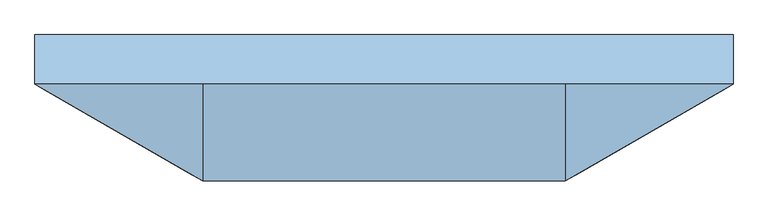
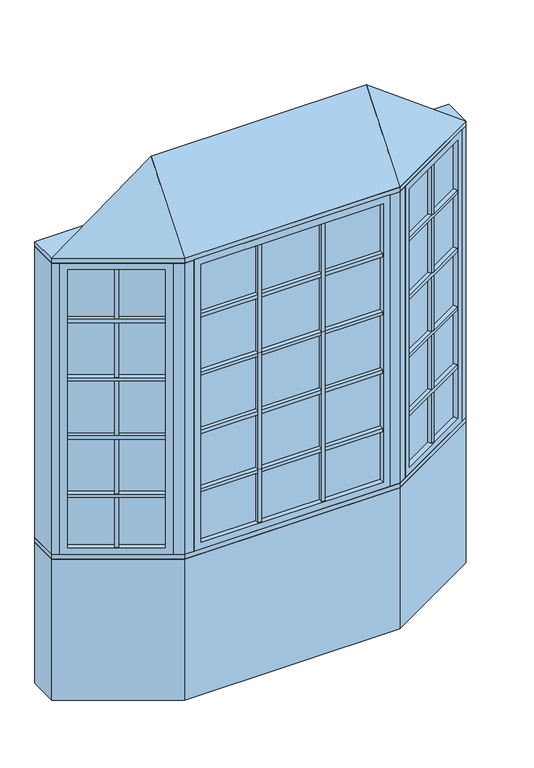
"""IFC4 building model written with IfcOpenShell, lengths in millimetres: window geometry, Pollard_Windows_Tudor Casement Bows and Bays : AML-BAY 30 AFR0616-10-500_GC."""

import ifcopenshell
import ifcopenshell.guid

model = None  # the IFC model being written
_history = None  # IfcOwnerHistory: only IFC2X3 demands one
_inside = {}  # id of a spatial element -> (the spatial element, [elements in it])
_under = {}  # id of a project, library or spatial element -> (it, [spatial elements below it])
_declared = {}  # id of a project -> (the project, [libraries it declares])
_typed = {}  # id of a type object -> (the type object, [elements of that type])
_made_of = {}  # id of a material, layer set ... -> (it, [elements and type objects made of it])


def new_model(schema):
    """Start an empty IFC model of exactly this schema.

    Asked for "IFC4X3", IfcOpenShell would pick the latest addendum, in which some entities
    have other attributes; the version numbers below select the first issue.
    IFC2X3 requires an IfcOwnerHistory on every rooted entity: one is made here for all.
    """
    global model, _history
    if schema == "IFC4X3":
        model = ifcopenshell.file(schema_version=(4, 3, 0, 0))
    else:
        model = ifcopenshell.file(schema=schema)
    _inside.clear()
    _under.clear()
    _declared.clear()
    _typed.clear()
    _made_of.clear()
    _history = None
    if model.schema == "IFC2X3":
        org = make("IfcOrganization", Name="unknown")
        user = make(
            "IfcPersonAndOrganization",
            ThePerson=make("IfcPerson", FamilyName="unknown"),
            TheOrganization=org,
        )
        app = make(
            "IfcApplication",
            ApplicationDeveloper=org,
            Version="unknown",
            ApplicationFullName="unknown",
            ApplicationIdentifier="unknown",
        )
        _history = make(
            "IfcOwnerHistory",
            OwningUser=user,
            OwningApplication=app,
            ChangeAction="ADDED",
            CreationDate=0,
        )
    return model


def make(cls, **values):
    """One entity of the class cls with the attributes given. An attribute that is None is left unset."""
    return model.create_entity(
        cls, **{name: value for name, value in values.items() if value is not None}
    )


def rooted(cls, **values):
    """An entity with a GlobalId (a new one), such as an element, a storey or a relation."""
    return make(cls, GlobalId=ifcopenshell.guid.new(), OwnerHistory=_history, **values)


def si_unit(unit_type, name, prefix=None):
    """IfcSIUnit, for example si_unit("LENGTHUNIT", "METRE", prefix="MILLI")."""
    return make("IfcSIUnit", UnitType=unit_type, Prefix=prefix, Name=name)


def assignment(units):
    """IfcUnitAssignment: the units of a project."""
    return None if units is None else make("IfcUnitAssignment", Units=units)


def point(xyz):
    """IfcCartesianPoint."""
    return None if xyz is None else make("IfcCartesianPoint", Coordinates=xyz)


def direction(xyz):
    """IfcDirection."""
    return None if xyz is None else make("IfcDirection", DirectionRatios=xyz)


def frame(location, z_axis=None, x_axis=None):
    """IfcAxis2Placement3D, a coordinate frame: its origin and axes. An axis left out is left unset."""
    return make(
        "IfcAxis2Placement3D",
        Location=point(location),
        Axis=direction(z_axis),
        RefDirection=direction(x_axis),
    )


def origin():
    """The frame at (0, 0, 0) with its axes left unset."""
    return frame((0.0, 0.0, 0.0))


def origin_with_axes():
    """The frame at (0, 0, 0) with the z axis (0, 0, 1) and the x axis (1, 0, 0) written out."""
    return frame((0.0, 0.0, 0.0), z_axis=(0.0, 0.0, 1.0), x_axis=(1.0, 0.0, 0.0))


def place(relative_to, where):
    """IfcLocalPlacement: puts the frame where relative to a parent placement (None: the world)."""
    return make(
        "IfcLocalPlacement", PlacementRelTo=relative_to, RelativePlacement=where
    )


def context(
    kind, dimensions, precision=None, world=None, true_north=None, identifier=None
):
    """IfcGeometricRepresentationContext, for example the 3D "Model" context."""
    return make(
        "IfcGeometricRepresentationContext",
        ContextIdentifier=identifier,
        ContextType=kind,
        CoordinateSpaceDimension=dimensions,
        Precision=precision,
        WorldCoordinateSystem=world,
        TrueNorth=true_north,
    )


def project(units=None, contexts=None):
    """IfcProject with its units and contexts."""
    return rooted(
        "IfcProject",
        Name="project",
        RepresentationContexts=contexts,
        UnitsInContext=assignment(units),
    )


def spatial(cls, under=None, at=None, **own):
    """A site, building, storey or space (cls), placed at a placement, below another one or the project."""
    s = rooted(cls, ObjectPlacement=at, **own)
    if under is not None:
        _under.setdefault(under.id(), (under, []))[1].append(s)
    return s


def polyline(points):
    """IfcPolyline through the points."""
    return make("IfcPolyline", Points=[point(p) for p in points])


def outline(outer, holes=None, kind="AREA"):
    """IfcArbitraryClosedProfileDef: a profile drawn as a closed curve; with holes, ...WithVoids."""
    if holes is None:
        return make("IfcArbitraryClosedProfileDef", ProfileType=kind, OuterCurve=outer)
    return make(
        "IfcArbitraryProfileDefWithVoids",
        ProfileType=kind,
        OuterCurve=outer,
        InnerCurves=holes,
    )


def extrude(swept, where, along, depth):
    """IfcExtrudedAreaSolid: the profile swept, set in the frame where, extruded along a direction by depth."""
    return make(
        "IfcExtrudedAreaSolid",
        SweptArea=swept,
        Position=where,
        ExtrudedDirection=direction(along),
        Depth=depth,
    )


def faces_of(points, faces, orient=None, outer=None):
    """IfcFace entities. A face is a list of loops; a loop is a list of indices into points, from 0.

    orient and outer hold one flag for each loop. By default every Orientation is true, the
    first loop of a face is its IfcFaceOuterBound and the others are IfcFaceBound.
    """
    made = []
    for i, loops in enumerate(faces):
        bounds = []
        for j, loop in enumerate(loops):
            is_outer = j == 0 if outer is None else outer[i][j]
            bounds.append(
                make(
                    "IfcFaceOuterBound" if is_outer else "IfcFaceBound",
                    Bound=make("IfcPolyLoop", Polygon=[points[k] for k in loop]),
                    Orientation=True if orient is None else orient[i][j],
                )
            )
        made.append(make("IfcFace", Bounds=bounds))
    return made


def faceted_brep(points, faces, orient=None, outer=None, voids=None):
    """IfcFacetedBrep: a solid bounded by flat faces; with voids (closed shells), ...WithVoids."""
    shared = [point(p) for p in points]
    hull = make("IfcClosedShell", CfsFaces=faces_of(shared, faces, orient, outer))
    if voids is None:
        return make("IfcFacetedBrep", Outer=hull)
    return make(
        "IfcFacetedBrepWithVoids",
        Outer=hull,
        Voids=[
            make(cls, CfsFaces=faces_of(shared, fs, o, b)) for cls, fs, o, b in voids
        ],
    )


def shape(context_of_items, identifier, shape_type, items):
    """IfcShapeRepresentation: the items that make up one representation, for example the "Body"."""
    return make(
        "IfcShapeRepresentation",
        ContextOfItems=context_of_items,
        RepresentationIdentifier=identifier,
        RepresentationType=shape_type,
        Items=items,
    )


def source(mapping_origin, context_of_items, identifier, shape_type, items):
    """IfcRepresentationMap: a shape defined once, which mapped items show again and again."""
    return make(
        "IfcRepresentationMap",
        MappingOrigin=mapping_origin,
        MappedRepresentation=shape(context_of_items, identifier, shape_type, items),
    )


def transform(
    local_origin,
    x_axis=None,
    y_axis=None,
    z_axis=None,
    scale=None,
    scale2=None,
    scale3=None,
    uniform=True,
):
    """IfcCartesianTransformationOperator3D, or its non-uniform kind. x_axis, y_axis, z_axis: its Axis1, 2, 3."""
    if uniform:
        return make(
            "IfcCartesianTransformationOperator3D",
            Axis1=direction(x_axis),
            Axis2=direction(y_axis),
            LocalOrigin=point(local_origin),
            Scale=scale,
            Axis3=direction(z_axis),
        )
    return make(
        "IfcCartesianTransformationOperator3DnonUniform",
        Axis1=direction(x_axis),
        Axis2=direction(y_axis),
        LocalOrigin=point(local_origin),
        Scale=scale,
        Axis3=direction(z_axis),
        Scale2=scale2,
        Scale3=scale3,
    )


def mapped(mapping_source, mapping_target):
    """IfcMappedItem: shows the shape of a source again, moved by a transform."""
    return make(
        "IfcMappedItem", MappingSource=mapping_source, MappingTarget=mapping_target
    )


def made_of(thing, what):
    """Note that an element or type object is made of a material, layer set ...; save() writes the relation."""
    if what is not None:
        _made_of.setdefault(what.id(), (what, []))[1].append(thing)
    return thing


def element(
    cls,
    number,
    at=None,
    inside=None,
    cuts=None,
    type_object=None,
    material=None,
    context=None,
    identifier="Body",
    shape_type=None,
    held_by="IfcProductDefinitionShape",
    body=None,
    shapes=None,
    **own,
):
    """One element of the class cls, such as IfcWall. Its Tag is "e" and its number.

    at: its placement. inside: the storey or other place that contains it. cuts: it is an
    opening in that element (IfcRelVoidsElement). A single representation is given by context,
    identifier, shape_type and body (its items); several are given by shapes. held_by: the class
    of the entity that holds the representations. save() writes the other relations.
    """
    e = rooted(cls, Tag="e%d" % number, ObjectPlacement=at, **own)
    if body is not None:
        shapes = [shape(context, identifier, shape_type, body)]
    if shapes is not None:
        e.Representation = make(held_by, Representations=shapes)
    if inside is not None:
        _inside.setdefault(inside.id(), (inside, []))[1].append(e)
    if cuts is not None:
        rooted(
            "IfcRelVoidsElement", RelatingBuildingElement=cuts, RelatedOpeningElement=e
        )
    if type_object is not None:
        _typed.setdefault(type_object.id(), (type_object, []))[1].append(e)
    return made_of(e, material)


def aggregate(whole, parts):
    """IfcRelAggregates: a whole, such as a stair, and the parts it consists of."""
    return rooted("IfcRelAggregates", RelatingObject=whole, RelatedObjects=parts)


def save(model, path):
    """Write the relations noted so far, then the file.

    IfcRelAggregates (storeys below a building ...), IfcRelContainedInSpatialStructure (elements
    in a storey), IfcRelDefinesByType, IfcRelAssociatesMaterial and IfcRelDeclares: one each for
    every whole, place, type object, material and project.
    """
    for whole, parts in _under.values():
        aggregate(whole, parts)
    for where, things in _inside.values():
        rooted(
            "IfcRelContainedInSpatialStructure",
            RelatedElements=things,
            RelatingStructure=where,
        )
    for kind, things in _typed.values():
        rooted("IfcRelDefinesByType", RelatedObjects=things, RelatingType=kind)
    for what, things in _made_of.values():
        rooted("IfcRelAssociatesMaterial", RelatedObjects=things, RelatingMaterial=what)
    for by, libraries in _declared.values():
        rooted("IfcRelDeclares", RelatingContext=by, RelatedDefinitions=libraries)
    model.write(path)


def window_1e108c49(model_context):
    return source(origin(), model_context, "Body", "SolidModel", [
        extrude(outline(polyline([(632.2305346, -327.3537343), (621.2305346, -308.3011754), (1002.1135794, -88.3982469), (1013.1135794, -107.4508058), (632.2305346, -327.3537343)])), frame((0.0, 0.0, 1110.998), z_axis=(0.0, 0.0, 1.0), x_axis=(1.0, 0.0, 0.0)), (0.0, 0.0, 1.0), 18.0),
        extrude(outline(polyline([(618.6905346, -303.9017664), (607.6905346, -284.8492075), (988.5735794, -64.946279), (999.5735794, -83.9988379), (618.6905346, -303.9017664)])), frame((0.0, 0.0, 1110.998), z_axis=(0.0, 0.0, 1.0), x_axis=(1.0, 0.0, 0.0)), (0.0, 0.0, 1.0), 18.0),
        extrude(outline(polyline([(632.2305346, -327.3537343), (621.2305346, -308.3011754), (1002.1135794, -88.3982469), (1013.1135794, -107.4508058), (632.2305346, -327.3537343)])), frame((0.0, 0.0, 1430.998), z_axis=(0.0, 0.0, 1.0), x_axis=(1.0, 0.0, 0.0)), (0.0, 0.0, 1.0), 18.0),
        extrude(outline(polyline([(618.6905346, -303.9017664), (607.6905346, -284.8492075), (988.5735794, -64.946279), (999.5735794, -83.9988379), (618.6905346, -303.9017664)])), frame((0.0, 0.0, 1430.998), z_axis=(0.0, 0.0, 1.0), x_axis=(1.0, 0.0, 0.0)), (0.0, 0.0, 1.0), 18.0),
        extrude(outline(polyline([(632.2305346, -327.3537343), (621.2305346, -308.3011754), (1002.1135794, -88.3982469), (1013.1135794, -107.4508058), (632.2305346, -327.3537343)])), frame((0.0, 0.0, 1750.998), z_axis=(0.0, 0.0, 1.0), x_axis=(1.0, 0.0, 0.0)), (0.0, 0.0, 1.0), 18.0),
        extrude(outline(polyline([(618.6905346, -303.9017664), (607.6905346, -284.8492075), (988.5735794, -64.946279), (999.5735794, -83.9988379), (618.6905346, -303.9017664)])), frame((0.0, 0.0, 1750.998), z_axis=(0.0, 0.0, 1.0), x_axis=(1.0, 0.0, 0.0)), (0.0, 0.0, 1.0), 18.0),
        extrude(outline(polyline([(632.2305346, -327.3537343), (621.2305346, -308.3011754), (1002.1135794, -88.3982469), (1013.1135794, -107.4508058), (632.2305346, -327.3537343)])), frame((0.0, 0.0, 2070.998), z_axis=(0.0, 0.0, 1.0), x_axis=(1.0, 0.0, 0.0)), (0.0, 0.0, 1.0), 18.0),
        extrude(outline(polyline([(618.6905346, -303.9017664), (607.6905346, -284.8492075), (988.5735794, -64.946279), (999.5735794, -83.9988379), (618.6905346, -303.9017664)])), frame((0.0, 0.0, 2070.998), z_axis=(0.0, 0.0, 1.0), x_axis=(1.0, 0.0, 0.0)), (0.0, 0.0, 1.0), 18.0),
        extrude(outline(polyline([(819.4662856, -193.8497112), (830.4662856, -212.9022701), (814.8778284, -221.9022701), (803.8778284, -202.8497112), (819.4662856, -193.8497112)])), frame((0.0, 0.0, 835.8628), z_axis=(0.0, 0.0, 1.0), x_axis=(1.0, 0.0, 0.0)), (0.0, 0.0, 1.0), 1528.2704),
        extrude(outline(polyline([(816.9262856, -189.4503021), (801.3378284, -198.4503021), (790.3378284, -179.3977432), (805.9262856, -170.3977432), (816.9262856, -189.4503021)])), frame((0.0, 0.0, 835.8628), z_axis=(0.0, 0.0, 1.0), x_axis=(1.0, 0.0, 0.0)), (0.0, 0.0, 1.0), 1528.2704),
        extrude(outline(polyline([(1013.112102, -82.0482469), (610.2320119, -314.6511754), (607.6920119, -310.2517664), (1010.572102, -77.6488379), (1013.112102, -82.0482469)])), frame((0.0, 0.0, 823.1628), z_axis=(0.0, 0.0, 1.0), x_axis=(1.0, 0.0, 0.0)), (0.0, 0.0, 1.0), 1553.6704),
        faceted_brep([(1002.1135794, -88.3982469, 835.8628), (1014.8135794, -110.3952922, 835.8628), (1014.8135794, -110.3952922, 2364.1332), (1002.1135794, -88.3982469, 2364.1332), (1010.572102, -77.6488379, 823.1628), (1013.112102, -82.0482469, 823.1628), (1013.112102, -82.0482469, 2376.8332), (1010.572102, -77.6488379, 2376.8332), (986.8735794, -62.0017926, 835.8628), (999.5735794, -83.9988379, 835.8628), (999.5735794, -83.9988379, 2364.1332), (986.8735794, -62.0017926, 2364.1332), (1045.8734073, -92.4628922, 799.998), (1017.9334073, -44.0693926, 799.998), (1017.9334073, -44.0693926, 2399.998), (1045.8734073, -92.4628922, 2399.998), (633.9305346, -330.2982207, 2364.1332), (621.2305346, -308.3011754, 2364.1332), (610.2320119, -314.6511754, 2376.8332), (607.6920119, -310.2517664, 2376.8332), (618.6905346, -303.9017664, 2364.1332), (605.9905346, -281.9047211, 2364.1332), (574.9307067, -299.8371211, 2399.998), (602.8707067, -348.2306207, 2399.998), (633.9305346, -330.2982207, 835.8628), (621.2305346, -308.3011754, 835.8628), (610.2320119, -314.6511754, 823.1628), (607.6920119, -310.2517664, 823.1628), (618.6905346, -303.9017664, 835.8628), (605.9905346, -281.9047211, 835.8628), (574.9307067, -299.8371211, 799.998), (602.8707067, -348.2306207, 799.998)], [[[0, 1, 2, 3]], [[4, 5, 6, 7]], [[8, 9, 10, 11]], [[12, 13, 14, 15]], [[3, 2, 16, 17]], [[7, 6, 18, 19]], [[11, 10, 20, 21]], [[15, 14, 22, 23]], [[17, 16, 24, 25]], [[19, 18, 26, 27]], [[21, 20, 28, 29]], [[23, 22, 30, 31]], [[25, 24, 1, 0]], [[5, 26, 18, 6], [3, 17, 25, 0]], [[27, 26, 5, 4]], [[7, 19, 27, 4], [9, 28, 20, 10]], [[29, 28, 9, 8]], [[13, 30, 22, 14], [11, 21, 29, 8]], [[31, 30, 13, 12]], [[15, 23, 31, 12], [1, 24, 16, 2]]]),
        extrude(outline(polyline([(174.1350122, -347.8306207), (174.1350122, -369.8306207), (156.1350122, -369.8306207), (156.1350122, -347.8306207), (174.1350122, -347.8306207)])), frame((0.0, 0.0, 835.8628), z_axis=(0.0, 0.0, 1.0), x_axis=(1.0, 0.0, 0.0)), (0.0, 0.0, 1.0), 1528.2704),
        extrude(outline(polyline([(174.1350122, -342.7506207), (156.1350122, -342.7506207), (156.1350122, -320.7506207), (174.1350122, -320.7506207), (174.1350122, -342.7506207)])), frame((0.0, 0.0, 835.8628), z_axis=(0.0, 0.0, 1.0), x_axis=(1.0, 0.0, 0.0)), (0.0, 0.0, 1.0), 1528.2704),
        extrude(outline(polyline([(-156.1350122, -347.8306207), (-156.1350122, -369.8306207), (-174.1350122, -369.8306207), (-174.1350122, -347.8306207), (-156.1350122, -347.8306207)])), frame((0.0, 0.0, 835.8628), z_axis=(0.0, 0.0, 1.0), x_axis=(1.0, 0.0, 0.0)), (0.0, 0.0, 1.0), 1528.2704),
        extrude(outline(polyline([(-156.1350122, -342.7506207), (-174.1350122, -342.7506207), (-174.1350122, -320.7506207), (-156.1350122, -320.7506207), (-156.1350122, -342.7506207)])), frame((0.0, 0.0, 835.8628), z_axis=(0.0, 0.0, 1.0), x_axis=(1.0, 0.0, 0.0)), (0.0, 0.0, 1.0), 1528.2704),
        extrude(outline(polyline([(-473.7046365, -369.8306207), (-473.7046365, -347.8306207), (473.7046365, -347.8306207), (473.7046365, -369.8306207), (-473.7046365, -369.8306207)])), frame((0.0, 0.0, 1110.998), z_axis=(0.0, 0.0, 1.0), x_axis=(1.0, 0.0, 0.0)), (0.0, 0.0, 1.0), 18.0),
        extrude(outline(polyline([(-473.7046365, -342.7506207), (-473.7046365, -320.7506207), (473.7046365, -320.7506207), (473.7046365, -342.7506207), (-473.7046365, -342.7506207)])), frame((0.0, 0.0, 1110.998), z_axis=(0.0, 0.0, 1.0), x_axis=(1.0, 0.0, 0.0)), (0.0, 0.0, 1.0), 18.0),
        extrude(outline(polyline([(-473.7046365, -369.8306207), (-473.7046365, -347.8306207), (473.7046365, -347.8306207), (473.7046365, -369.8306207), (-473.7046365, -369.8306207)])), frame((0.0, 0.0, 1430.998), z_axis=(0.0, 0.0, 1.0), x_axis=(1.0, 0.0, 0.0)), (0.0, 0.0, 1.0), 18.0),
        extrude(outline(polyline([(-473.7046365, -342.7506207), (-473.7046365, -320.7506207), (473.7046365, -320.7506207), (473.7046365, -342.7506207), (-473.7046365, -342.7506207)])), frame((0.0, 0.0, 1430.998), z_axis=(0.0, 0.0, 1.0), x_axis=(1.0, 0.0, 0.0)), (0.0, 0.0, 1.0), 18.0),
        extrude(outline(polyline([(-473.7046365, -369.8306207), (-473.7046365, -347.8306207), (473.7046365, -347.8306207), (473.7046365, -369.8306207), (-473.7046365, -369.8306207)])), frame((0.0, 0.0, 1750.998), z_axis=(0.0, 0.0, 1.0), x_axis=(1.0, 0.0, 0.0)), (0.0, 0.0, 1.0), 18.0),
        extrude(outline(polyline([(-473.7046365, -342.7506207), (-473.7046365, -320.7506207), (473.7046365, -320.7506207), (473.7046365, -342.7506207), (-473.7046365, -342.7506207)])), frame((0.0, 0.0, 1750.998), z_axis=(0.0, 0.0, 1.0), x_axis=(1.0, 0.0, 0.0)), (0.0, 0.0, 1.0), 18.0),
        extrude(outline(polyline([(-1013.1135794, -107.4508058), (-1002.1135794, -88.3982469), (-621.2305346, -308.3011754), (-632.2305346, -327.3537343), (-1013.1135794, -107.4508058)])), frame((0.0, 0.0, 1110.998), z_axis=(0.0, 0.0, 1.0), x_axis=(1.0, 0.0, 0.0)), (0.0, 0.0, 1.0), 18.0),
        extrude(outline(polyline([(-999.5735794, -83.9988379), (-988.5735794, -64.946279), (-607.6905346, -284.8492075), (-618.6905346, -303.9017664), (-999.5735794, -83.9988379)])), frame((0.0, 0.0, 1110.998), z_axis=(0.0, 0.0, 1.0), x_axis=(1.0, 0.0, 0.0)), (0.0, 0.0, 1.0), 18.0),
        extrude(outline(polyline([(-1013.1135794, -107.4508058), (-1002.1135794, -88.3982469), (-621.2305346, -308.3011754), (-632.2305346, -327.3537343), (-1013.1135794, -107.4508058)])), frame((0.0, 0.0, 1430.998), z_axis=(0.0, 0.0, 1.0), x_axis=(1.0, 0.0, 0.0)), (0.0, 0.0, 1.0), 18.0),
        extrude(outline(polyline([(-999.5735794, -83.9988379), (-988.5735794, -64.946279), (-607.6905346, -284.8492075), (-618.6905346, -303.9017664), (-999.5735794, -83.9988379)])), frame((0.0, 0.0, 1430.998), z_axis=(0.0, 0.0, 1.0), x_axis=(1.0, 0.0, 0.0)), (0.0, 0.0, 1.0), 18.0),
        extrude(outline(polyline([(-1013.1135794, -107.4508058), (-1002.1135794, -88.3982469), (-621.2305346, -308.3011754), (-632.2305346, -327.3537343), (-1013.1135794, -107.4508058)])), frame((0.0, 0.0, 1750.998), z_axis=(0.0, 0.0, 1.0), x_axis=(1.0, 0.0, 0.0)), (0.0, 0.0, 1.0), 18.0),
        extrude(outline(polyline([(-999.5735794, -83.9988379), (-988.5735794, -64.946279), (-607.6905346, -284.8492075), (-618.6905346, -303.9017664), (-999.5735794, -83.9988379)])), frame((0.0, 0.0, 1750.998), z_axis=(0.0, 0.0, 1.0), x_axis=(1.0, 0.0, 0.0)), (0.0, 0.0, 1.0), 18.0),
        extrude(outline(polyline([(-1013.1135794, -107.4508058), (-1002.1135794, -88.3982469), (-621.2305346, -308.3011754), (-632.2305346, -327.3537343), (-1013.1135794, -107.4508058)])), frame((0.0, 0.0, 2070.998), z_axis=(0.0, 0.0, 1.0), x_axis=(1.0, 0.0, 0.0)), (0.0, 0.0, 1.0), 18.0),
        extrude(outline(polyline([(-999.5735794, -83.9988379), (-988.5735794, -64.946279), (-607.6905346, -284.8492075), (-618.6905346, -303.9017664), (-999.5735794, -83.9988379)])), frame((0.0, 0.0, 2070.998), z_axis=(0.0, 0.0, 1.0), x_axis=(1.0, 0.0, 0.0)), (0.0, 0.0, 1.0), 18.0),
        extrude(outline(polyline([(-473.7046365, -369.8306207), (-473.7046365, -347.8306207), (473.7046365, -347.8306207), (473.7046365, -369.8306207), (-473.7046365, -369.8306207)])), frame((0.0, 0.0, 2070.998), z_axis=(0.0, 0.0, 1.0), x_axis=(1.0, 0.0, 0.0)), (0.0, 0.0, 1.0), 18.0),
        extrude(outline(polyline([(-473.7046365, -342.7506207), (-473.7046365, -320.7506207), (473.7046365, -320.7506207), (473.7046365, -342.7506207), (-473.7046365, -342.7506207)])), frame((0.0, 0.0, 2070.998), z_axis=(0.0, 0.0, 1.0), x_axis=(1.0, 0.0, 0.0)), (0.0, 0.0, 1.0), 18.0),
        extrude(outline(polyline([(-803.8778284, -202.8497112), (-814.8778284, -221.9022701), (-830.4662856, -212.9022701), (-819.4662856, -193.8497112), (-803.8778284, -202.8497112)])), frame((0.0, 0.0, 835.8628), z_axis=(0.0, 0.0, 1.0), x_axis=(1.0, 0.0, 0.0)), (0.0, 0.0, 1.0), 1528.2704),
        extrude(outline(polyline([(-801.3378284, -198.4503021), (-816.9262856, -189.4503021), (-805.9262856, -170.3977432), (-790.3378284, -179.3977432), (-801.3378284, -198.4503021)])), frame((0.0, 0.0, 835.8628), z_axis=(0.0, 0.0, 1.0), x_axis=(1.0, 0.0, 0.0)), (0.0, 0.0, 1.0), 1528.2704),
        extrude(outline(polyline([(-610.2320119, -314.6511754), (-1013.112102, -82.0482469), (-1010.572102, -77.6488379), (-607.6920119, -310.2517664), (-610.2320119, -314.6511754)])), frame((0.0, 0.0, 823.1628), z_axis=(0.0, 0.0, 1.0), x_axis=(1.0, 0.0, 0.0)), (0.0, 0.0, 1.0), 1553.6704),
        faceted_brep([(-618.6905346, -303.9017664, 2364.1332), (-605.9905346, -281.9047211, 2364.1332), (-605.9905346, -281.9047211, 835.8628), (-618.6905346, -303.9017664, 835.8628), (-610.2320119, -314.6511754, 2376.8332), (-607.6920119, -310.2517664, 2376.8332), (-607.6920119, -310.2517664, 823.1628), (-610.2320119, -314.6511754, 823.1628), (-633.9305346, -330.2982207, 2364.1332), (-621.2305346, -308.3011754, 2364.1332), (-621.2305346, -308.3011754, 835.8628), (-633.9305346, -330.2982207, 835.8628), (-574.9307067, -299.8371211, 2399.998), (-602.8707067, -348.2306207, 2399.998), (-602.8707067, -348.2306207, 799.998), (-574.9307067, -299.8371211, 799.998), (-986.8735794, -62.0017926, 835.8628), (-999.5735794, -83.9988379, 835.8628), (-1010.572102, -77.6488379, 823.1628), (-1013.112102, -82.0482469, 823.1628), (-1002.1135794, -88.3982469, 835.8628), (-1014.8135794, -110.3952922, 835.8628), (-1045.8734073, -92.4628922, 799.998), (-1017.9334073, -44.0693926, 799.998), (-986.8735794, -62.0017926, 2364.1332), (-999.5735794, -83.9988379, 2364.1332), (-1010.572102, -77.6488379, 2376.8332), (-1013.112102, -82.0482469, 2376.8332), (-1002.1135794, -88.3982469, 2364.1332), (-1014.8135794, -110.3952922, 2364.1332), (-1045.8734073, -92.4628922, 2399.998), (-1017.9334073, -44.0693926, 2399.998)], [[[0, 1, 2, 3]], [[4, 5, 6, 7]], [[8, 9, 10, 11]], [[12, 13, 14, 15]], [[3, 2, 16, 17]], [[7, 6, 18, 19]], [[11, 10, 20, 21]], [[15, 14, 22, 23]], [[17, 16, 24, 25]], [[19, 18, 26, 27]], [[21, 20, 28, 29]], [[23, 22, 30, 31]], [[15, 23, 31, 12], [1, 24, 16, 2]], [[25, 24, 1, 0]], [[5, 26, 18, 6], [3, 17, 25, 0]], [[27, 26, 5, 4]], [[7, 19, 27, 4], [9, 28, 20, 10]], [[29, 28, 9, 8]], [[13, 30, 22, 14], [11, 21, 29, 8]], [[31, 30, 13, 12]]]),
        extrude(outline(polyline([(486.4046365, -347.8306207), (-486.4046365, -347.8306207), (-486.4046365, -342.7506207), (486.4046365, -342.7506207), (486.4046365, -347.8306207)])), frame((0.0, 0.0, 823.1628), z_axis=(0.0, 0.0, 1.0), x_axis=(1.0, 0.0, 0.0)), (0.0, 0.0, 1.0), 1553.6704),
        faceted_brep([(473.7046365, -347.8306207, 835.8628), (473.7046365, -373.2306207, 835.8628), (473.7046365, -373.2306207, 2364.1332), (473.7046365, -347.8306207, 2364.1332), (486.4046365, -342.7506207, 823.1628), (486.4046365, -347.8306207, 823.1628), (486.4046365, -347.8306207, 2376.8332), (486.4046365, -342.7506207, 2376.8332), (473.7046365, -317.3506207, 835.8628), (473.7046365, -342.7506207, 835.8628), (473.7046365, -342.7506207, 2364.1332), (473.7046365, -317.3506207, 2364.1332), (509.5694365, -373.2306207, 799.998), (509.5694365, -317.3506207, 799.998), (509.5694365, -317.3506207, 2399.998), (509.5694365, -373.2306207, 2399.998), (-473.7046365, -373.2306207, 2364.1332), (-473.7046365, -347.8306207, 2364.1332), (-486.4046365, -347.8306207, 2376.8332), (-486.4046365, -342.7506207, 2376.8332), (-473.7046365, -342.7506207, 2364.1332), (-473.7046365, -317.3506207, 2364.1332), (-509.5694365, -317.3506207, 2399.998), (-509.5694365, -373.2306207, 2399.998), (-473.7046365, -373.2306207, 835.8628), (-473.7046365, -347.8306207, 835.8628), (-486.4046365, -347.8306207, 823.1628), (-486.4046365, -342.7506207, 823.1628), (-473.7046365, -342.7506207, 835.8628), (-473.7046365, -317.3506207, 835.8628), (-509.5694365, -317.3506207, 799.998), (-509.5694365, -373.2306207, 799.998)], [[[0, 1, 2, 3]], [[4, 5, 6, 7]], [[8, 9, 10, 11]], [[12, 13, 14, 15]], [[3, 2, 16, 17]], [[7, 6, 18, 19]], [[11, 10, 20, 21]], [[15, 14, 22, 23]], [[17, 16, 24, 25]], [[19, 18, 26, 27]], [[21, 20, 28, 29]], [[23, 22, 30, 31]], [[15, 23, 31, 12], [1, 24, 16, 2]], [[25, 24, 1, 0]], [[5, 26, 18, 6], [3, 17, 25, 0]], [[27, 26, 5, 4]], [[7, 19, 27, 4], [9, 28, 20, 10]], [[29, 28, 9, 8]], [[13, 30, 22, 14], [11, 21, 29, 8]], [[31, 30, 13, 12]]]),
        faceted_brep([(1076.5, -74.7806207, 2425.398), (559.5694365, -373.2306207, 2425.398), (-559.5694365, -373.2306207, 2425.398), (-1076.5, -74.7806207, 2425.398), (-559.5694365, -74.7806207, 2806.398), (559.5694365, -74.7806207, 2806.398)], [[[0, 1, 2, 3]], [[3, 2, 4]], [[2, 1, 5, 4]], [[1, 0, 5]], [[0, 3, 4, 5]]]),
        extrude(outline(polyline([(-1076.5, 77.6193793), (1076.5, 77.6193793), (1076.5, -74.7806207), (559.5694365, -373.2306207), (-559.5694365, -373.2306207), (-1076.5, -74.7806207), (-1076.5, 77.6193793)])), frame((0.0, 0.0, 2399.998), z_axis=(0.0, 0.0, 1.0), x_axis=(1.0, 0.0, 0.0)), (0.0, 0.0, 1.0), 25.4),
        extrude(outline(polyline([(-1076.5, -74.7806207), (-1076.5, 77.6193793), (-1035.6645431, 77.6193793), (-1035.6645431, -74.7806207), (-1045.8734073, -92.4628922), (-1076.5, -74.7806207)])), frame((0.0, 0.0, 799.998), z_axis=(0.0, 0.0, 1.0), x_axis=(1.0, 0.0, 0.0)), (0.0, 0.0, 1.0), 1600.0),
        extrude(outline(polyline([(1076.5, 77.6193793), (1076.5, -74.7806207), (1045.8734073, -92.4628922), (1035.6645431, -74.7806207), (1035.6645431, 77.6193793), (1076.5, 77.6193793)])), frame((0.0, 0.0, 799.998), z_axis=(0.0, 0.0, 1.0), x_axis=(1.0, 0.0, 0.0)), (0.0, 0.0, 1.0), 1600.0),
        extrude(outline(polyline([(559.5694365, -373.2306207), (509.5694365, -373.2306207), (509.5694365, -323.2306207), (546.1719769, -323.2306207), (577.8707067, -304.9293505), (602.8707067, -348.2306207), (559.5694365, -373.2306207)])), frame((0.0, 0.0, 799.998), z_axis=(0.0, 0.0, 1.0), x_axis=(1.0, 0.0, 0.0)), (0.0, 0.0, 1.0), 1600.0),
        extrude(outline(polyline([(-559.5694365, -373.2306207), (-602.8707067, -348.2306207), (-577.8707067, -304.9293505), (-546.1719769, -323.2306207), (-509.5694365, -323.2306207), (-509.5694365, -373.2306207), (-559.5694365, -373.2306207)])), frame((0.0, 0.0, 799.998), z_axis=(0.0, 0.0, 1.0), x_axis=(1.0, 0.0, 0.0)), (0.0, 0.0, 1.0), 1600.0),
        extrude(outline(polyline([(-559.5694365, -373.2306207), (-1076.5, -74.7806207), (-1076.5, 77.6193793), (-1035.6645431, 77.6193793), (-518.7339796, -220.8306207), (518.7339796, -220.8306207), (1035.6645431, 77.6193793), (1076.5, 77.6193793), (1076.5, -74.7806207), (559.5694365, -373.2306207), (-559.5694365, -373.2306207)])), frame((0.0, 0.0, 774.598), z_axis=(0.0, 0.0, 1.0), x_axis=(1.0, 0.0, 0.0)), (0.0, 0.0, 1.0), 25.4),
        extrude(outline(polyline([(-1076.5, -74.7806207), (-1076.5, 77.6193793), (-1035.6645431, 77.6193793), (-518.7339796, -220.8306207), (518.7339796, -220.8306207), (1035.6645431, 77.6193793), (1076.5, 77.6193793), (1076.5, -74.7806207), (559.5694365, -373.2306207), (-559.5694365, -373.2306207), (-1076.5, -74.7806207)])), origin_with_axes(), (0.0, 0.0, 1.0), 774.598),
    ])


if __name__ == "__main__":
    model = new_model("IFC4")
    model_context = context("Model", 3, world=origin())
    ifc_project = project(units=[si_unit("LENGTHUNIT", "METRE", prefix="MILLI")], contexts=[model_context])
    site = spatial("IfcSite", under=ifc_project)
    building = spatial("IfcBuilding", under=site)
    placement = place(None, origin())
    window_shape = window_1e108c49(model_context)
    element("IfcWindow", 1, ObjectType="Pollard_Windows_Tudor Casement Bows and Bays : AML-BAY 30 AFR0616-10-500_GC", at=placement, inside=building, context=model_context, shape_type="MappedRepresentation", body=[
        mapped(window_shape, transform((0.0, 0.0, 0.0), x_axis=(1.0, 0.0, 0.0), y_axis=(0.0, 1.0, 0.0), z_axis=(0.0, 0.0, 1.0))),
    ])
    save(model, "model.ifc")
